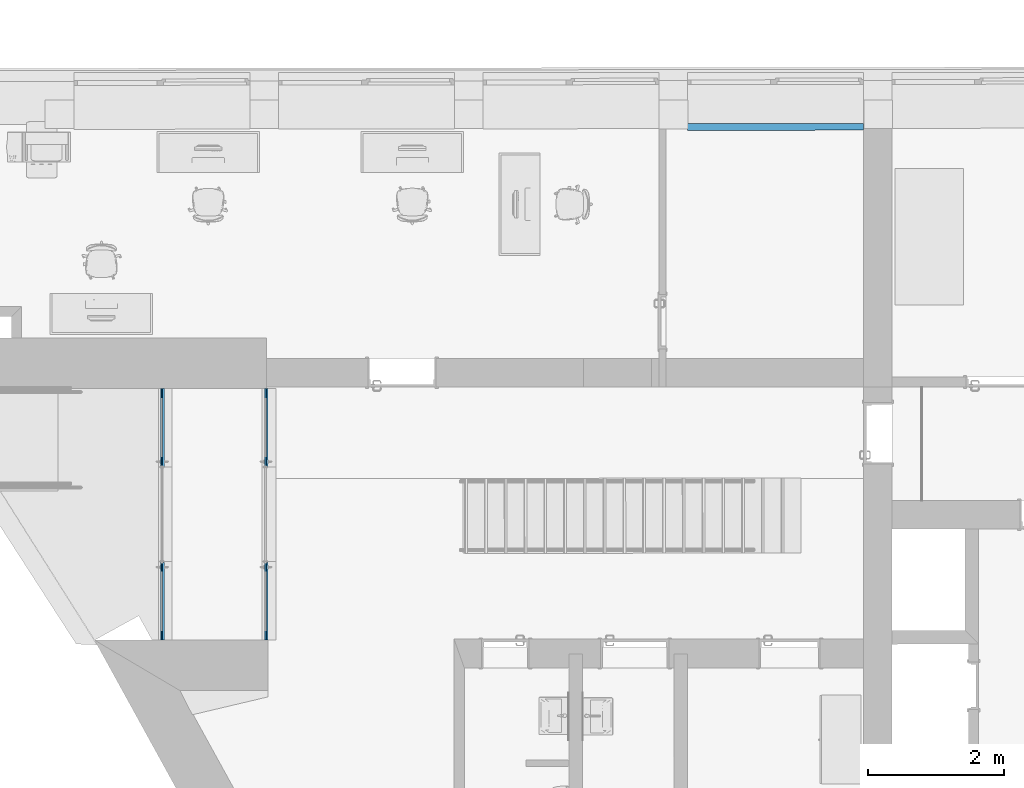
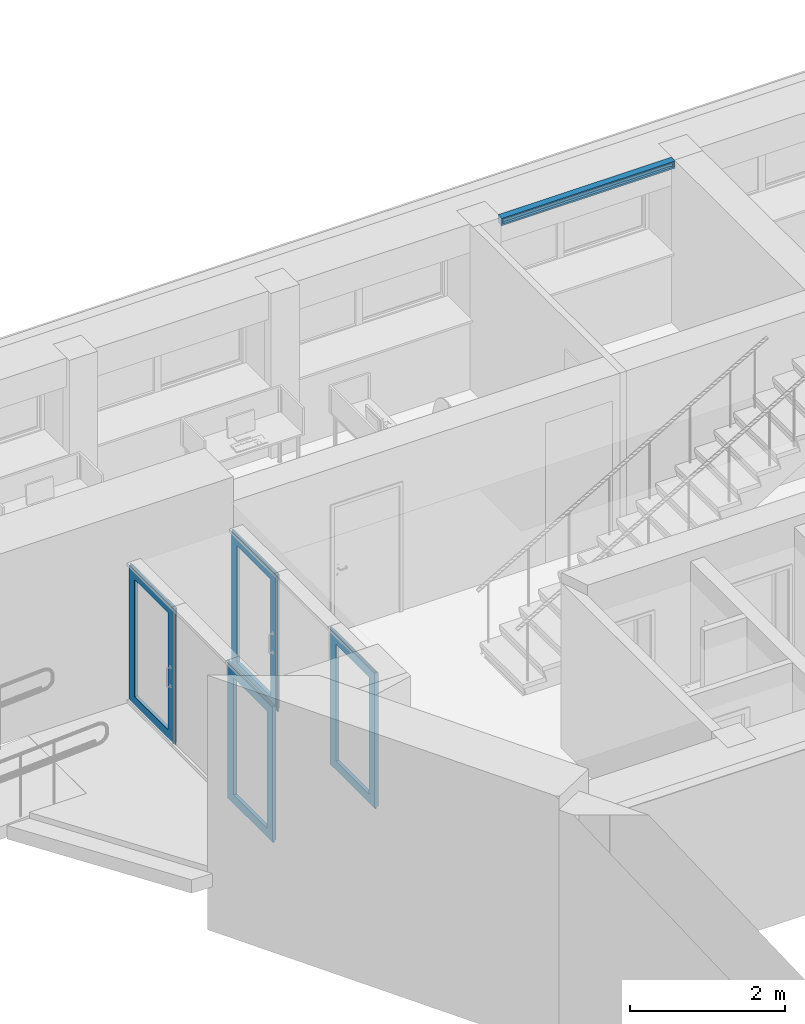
# One storey, part 63 of 127: 4 building element parts, 1 discrete accessory, 6 elements without a shape of their own.
"""IFC2X3 building model written with IfcOpenShell, lengths in millimetres."""

from ifc_helpers import new_model, entity, si_unit, converted_unit, derived_unit, money_unit, direction, frame, origin_with_axes, place, context, subcontext, project, spatial, faceted_brep, material, type_object, element, aggregate, save


model = new_model("IFC2X3")

# Units and contexts
model_context = context("Model", 3, precision=1e-05, world=origin_with_axes(), true_north=direction((0.0, 1.0)))
body_context = subcontext(model_context, "Body", "Model", "MODEL_VIEW")
ifc_project = project(units=[si_unit("LENGTHUNIT", "METRE", prefix="MILLI"), si_unit("AREAUNIT", "SQUARE_METRE"), si_unit("VOLUMEUNIT", "CUBIC_METRE"), converted_unit("PLANEANGLEUNIT", "DEGREE", entity("IfcPlaneAngleMeasure", 0.0174532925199), si_unit("PLANEANGLEUNIT", "RADIAN"), dimensions=[0, 0, 0, 0, 0, 0, 0]), si_unit("SOLIDANGLEUNIT", "STERADIAN"), money_unit("EUR"), converted_unit("TIMEUNIT", "Year", entity("IfcTimeMeasure", 31556926.0), si_unit("TIMEUNIT", "SECOND"), dimensions=[0, 0, 1, 0, 0, 0, 0]), si_unit("MASSUNIT", "GRAM", prefix="KILO"), si_unit("THERMODYNAMICTEMPERATUREUNIT", "DEGREE_CELSIUS"), si_unit("LUMINOUSINTENSITYUNIT", "LUMEN"), si_unit("ENERGYUNIT", "JOULE", prefix="MEGA"), derived_unit("THERMALCONDUCTANCEUNIT", [(si_unit("POWERUNIT", "WATT"), 1), (si_unit("LENGTHUNIT", "METRE"), -1), (si_unit("THERMODYNAMICTEMPERATUREUNIT", "KELVIN"), -1)]), derived_unit("SPECIFICHEATCAPACITYUNIT", [(si_unit("ENERGYUNIT", "JOULE"), 1), (si_unit("MASSUNIT", "GRAM", prefix="KILO"), -1), (si_unit("THERMODYNAMICTEMPERATUREUNIT", "KELVIN"), -1)]), derived_unit("MASSDENSITYUNIT", [(si_unit("MASSUNIT", "GRAM", prefix="KILO"), 1), (si_unit("VOLUMEUNIT", "CUBIC_METRE"), -1)])], contexts=[model_context])

# Site, building, storey
site_placement = place(None, origin_with_axes())
site = spatial("IfcSite", under=ifc_project, at=site_placement, Name="Site", CompositionType="ELEMENT")
building_placement = place(site_placement, origin_with_axes())
building = spatial("IfcBuilding", under=site, at=building_placement, Name="Building", CompositionType="ELEMENT")
storey_placement = place(building_placement, origin_with_axes())
storey = spatial("IfcBuildingStorey", under=building, at=storey_placement, Name="1 KORRUS", CompositionType="ELEMENT", Elevation=0.0)

# Discrete accessory
discrete_accessory_type = type_object("IfcDiscreteAccessoryType", Name="Vertical Gable Louver 22")
discrete_accessory_placement = place(storey_placement, frame((15736.3412547, 71166.1241402, 2486.66953527), z_axis=(0.0, 0.0, 1.0), x_axis=(0.999998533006, 0.00171288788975, 0.0)))
element("IfcDiscreteAccessory", 1, at=discrete_accessory_placement, inside=storey, type_object=discrete_accessory_type, Name="Turvakardin", context=body_context, shape_type="Brep", body=[
    faceted_brep([(-2579.47639135, 0.0, 25.4), (-2579.47639135, 0.0, 113.330464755), (-2515.97639135, 0.0, 49.8304647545), (-2515.97639135, 0.0, 25.4), (-2579.47639135, -100.0, 25.4), (-2579.47639135, -100.0, 113.330464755), (0.0, 0.0, 113.330464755), (-63.5, 0.0, 49.8304647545), (-2515.97639135, -68.74, 49.8304647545), (-2515.97639135, -68.74, 25.4), (-2515.98626961, -68.7515556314, 25.4), (-2555.65401309, -74.9984443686, 25.4), (-2555.66389135, -75.0, 25.4), (-2555.66691749, -75.0095311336, 25.4), (-2563.60139135, -100.0, 25.4), (-2563.60139135, -100.0, 97.4554647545), (0.0, -100.0, 113.330464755), (0.0, 0.0, 25.4), (-63.5, 0.0, 25.4), (-63.5, -68.74, 49.8304647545), (-2515.98626961, -68.7515556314, 49.840343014), (-2555.65401309, -74.9984443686, 89.508086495), (-2555.66389135, -75.0, 89.5179647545), (-2555.66691749, -75.0095311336, 89.5209908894), (-15.875, -100.0, 97.4554647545), (0.0, -100.0, 25.4), (-15.875, -100.0, 25.4), (-23.8094738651, -75.0095311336, 25.4), (-23.8125, -75.0, 25.4), (-23.8223782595, -74.9984443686, 25.4), (-63.4901217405, -68.7515556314, 25.4), (-63.5, -68.74, 25.4), (-63.4901217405, -68.7515556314, 49.840343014), (-23.8223782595, -74.9984443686, 89.508086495), (-23.8125, -75.0, 89.5179647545), (-23.8094738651, -75.0095311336, 89.5209908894)], [[[0, 1, 2, 3]], [[4, 5, 1, 0]], [[1, 6, 7, 2]], [[3, 2, 8, 9]], [[0, 3, 9, 10, 11, 12, 13, 14, 4]], [[14, 15, 5, 4]], [[5, 16, 6, 1]], [[6, 17, 18, 7]], [[2, 7, 19, 8]], [[9, 8, 20, 10]], [[10, 20, 21, 11]], [[11, 21, 22, 12]], [[12, 22, 23, 13]], [[13, 23, 15, 14]], [[15, 24, 16, 5]], [[16, 25, 17, 6]], [[17, 25, 26, 27, 28, 29, 30, 31, 18]], [[7, 18, 31, 19]], [[8, 19, 32, 20]], [[20, 32, 33, 21]], [[21, 33, 34, 22]], [[22, 34, 35, 23]], [[23, 35, 24, 15]], [[24, 26, 25, 16]], [[35, 27, 26, 24]], [[34, 28, 27, 35]], [[33, 29, 28, 34]], [[32, 30, 29, 33]], [[19, 31, 30, 32]]]),
    faceted_brep([(-2579.47639135, 0.0, 0.0), (-2579.47639135, 0.0, 25.4), (0.0, 0.0, 25.4), (0.0, 0.0, 0.0), (-2579.47639135, -100.0, 0.0), (-2579.47639135, -100.0, 25.4), (0.0, -100.0, 25.4), (0.0, -100.0, 0.0)], [[[0, 1, 2, 3]], [[0, 4, 5, 1]], [[1, 5, 6, 2]], [[2, 6, 7, 3]], [[3, 7, 4, 0]], [[7, 6, 5, 4]]]),
    faceted_brep([(-2515.97639135, -62.5, 25.4), (-63.5, -62.5, 25.4), (-63.5, -62.5, 49.8304647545), (-2515.97639135, -62.5, 49.8304647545), (-2515.97639135, -50.0, 25.4), (-63.5, -50.0, 25.4), (-63.5, -32.8986746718, 49.8304647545), (-2515.97639135, -32.8986746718, 49.8304647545)], [[[0, 1, 2, 3]], [[4, 5, 1, 0]], [[1, 5, 6, 2]], [[3, 2, 6, 7]], [[0, 3, 7, 4]], [[7, 6, 5, 4]]]),
])

# Curtain wall, doors, building element parts
curtain_wall_type_1 = type_object("IfcCurtainWallType", Name="SU-1", PredefinedType="NOTDEFINED")
curtain_wall_1_placement = place(storey_placement, frame((6971.7658044, 65433.451484, 25.0), z_axis=(0.0, 0.0, 1.0), x_axis=(1.0, 0.0, 0.0)))
curtain_wall_1 = element("IfcCurtainWall", 2, at=curtain_wall_1_placement, inside=storey, type_object=curtain_wall_type_1, Name="Siseuks")
door_style = type_object("IfcDoorStyle", Name="1150 x 5 x 20", ConstructionType="NOTDEFINED", OperationType="NOTDEFINED", ParameterTakesPrecedence=False, Sizeable=False)
door_1_placement = place(curtain_wall_1_placement, frame((0.0, 1268.3040286, 1075.0), z_axis=(0.0, 0.0, 1.0), x_axis=(0.0, -1.0, 0.0)))
door_1 = element("IfcDoor", 3, at=door_1_placement, type_object=door_style, Name="Siseuks * CW Door 22")
ifc_material = material(Name="Alumiinium (1)")
building_element_part_1_placement = place(door_1_placement, origin_with_axes())
building_element_part_1 = element("IfcBuildingElementPart", 4, at=building_element_part_1_placement, material=ifc_material, Name="Alumiinium (1)", context=body_context, shape_type="Brep", body=[
    faceted_brep([(-575.000011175, 35.0, -1049.99999627), (-575.000011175, 30.0, -1049.99999627), (-575.000011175, 30.0, 1049.99999627), (-575.000011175, 35.0, 1049.99999627), (-530.000011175, 35.0, -1049.99999627), (-530.000011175, 30.0, -1049.99999627), (-530.000011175, 30.0, 1004.99999627), (-530.000011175, 35.0, 1004.99999627)], [[[0, 1, 2, 3]], [[4, 5, 1, 0]], [[1, 5, 6, 2]], [[3, 2, 6, 7]], [[0, 3, 7, 4]], [[7, 6, 5, 4]]]),
    faceted_brep([(564.999998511, 35.0, 1049.99999627), (564.999998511, 30.0, 1049.99999627), (519.999998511, 30.0, 1004.99999627), (519.999998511, 35.0, 1004.99999627), (-575.000011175, 35.0, 1049.99999627), (-575.000011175, 30.0, 1049.99999627), (-530.000011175, 30.0, 1004.99999627), (-530.000011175, 35.0, 1004.99999627)], [[[0, 1, 2, 3]], [[4, 5, 1, 0]], [[1, 5, 6, 2]], [[3, 2, 6, 7]], [[0, 3, 7, 4]], [[7, 6, 5, 4]]]),
    faceted_brep([(564.999998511, 35.0, -1049.99999627), (564.999998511, 30.0, -1049.99999627), (519.999998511, 30.0, -1049.99999627), (519.999998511, 35.0, -1049.99999627), (564.999998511, 35.0, 1049.99999627), (564.999998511, 30.0, 1049.99999627), (519.999998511, 30.0, 1004.99999627), (519.999998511, 35.0, 1004.99999627)], [[[0, 1, 2, 3]], [[4, 5, 1, 0]], [[1, 5, 6, 2]], [[3, 2, 6, 7]], [[0, 3, 7, 4]], [[7, 6, 5, 4]]]),
    faceted_brep([(-575.000011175, 30.0, -1049.99999627), (-575.000011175, -20.0, -1049.99999627), (-575.000011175, -20.0, 1049.99999627), (-575.000011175, 30.0, 1049.99999627), (-555.000011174, 30.0, -1049.99999627), (-555.000011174, -20.0, -1049.99999627), (-555.000011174, -20.0, 1029.99999627), (-555.000011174, 30.0, 1029.99999627)], [[[0, 1, 2, 3]], [[4, 5, 1, 0]], [[1, 5, 6, 2]], [[3, 2, 6, 7]], [[0, 3, 7, 4]], [[7, 6, 5, 4]]]),
    faceted_brep([(564.999998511, 30.0, 1049.99999627), (564.999998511, -20.0, 1049.99999627), (544.99999851, -20.0, 1029.99999627), (544.99999851, 30.0, 1029.99999627), (-575.000011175, 30.0, 1049.99999627), (-575.000011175, -20.0, 1049.99999627), (-555.000011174, -20.0, 1029.99999627), (-555.000011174, 30.0, 1029.99999627)], [[[0, 1, 2, 3]], [[4, 5, 1, 0]], [[1, 5, 6, 2]], [[3, 2, 6, 7]], [[0, 3, 7, 4]], [[7, 6, 5, 4]]]),
    faceted_brep([(564.999998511, 30.0, -1049.99999627), (564.999998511, -20.0, -1049.99999627), (544.99999851, -20.0, -1049.99999627), (544.99999851, 30.0, -1049.99999627), (564.999998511, 30.0, 1049.99999627), (564.999998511, -20.0, 1049.99999627), (544.99999851, -20.0, 1029.99999627), (544.99999851, 30.0, 1029.99999627)], [[[0, 1, 2, 3]], [[4, 5, 1, 0]], [[1, 5, 6, 2]], [[3, 2, 6, 7]], [[0, 3, 7, 4]], [[7, 6, 5, 4]]]),
    faceted_brep([(595.000000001, 9.99999999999, -1080.0), (595.000000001, -9.99999999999, -1080.0), (-575.000032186, -9.99999999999, -1080.0), (-575.000032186, 9.99999999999, -1080.0), (564.999998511, 9.99999999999, -1049.99999627), (564.999998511, -9.99999999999, -1049.99999627), (-575.000011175, -9.99999999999, -1049.99999627), (-575.000011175, 9.99999999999, -1049.99999627)], [[[0, 1, 2, 3]], [[4, 5, 1, 0]], [[1, 5, 6, 2]], [[3, 2, 6, 7]], [[0, 3, 7, 4]], [[7, 6, 5, 4]]]),
    faceted_brep([(-575.000032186, 9.99999999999, 1080.0), (-575.000032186, -9.99999999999, 1080.0), (595.000000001, -9.99999999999, 1080.0), (595.000000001, 9.99999999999, 1080.0), (-575.000011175, 9.99999999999, 1049.99999627), (-575.000011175, -9.99999999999, 1049.99999627), (564.999998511, -9.99999999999, 1049.99999627), (564.999998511, 9.99999999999, 1049.99999627)], [[[0, 1, 2, 3]], [[4, 5, 1, 0]], [[1, 5, 6, 2]], [[3, 2, 6, 7]], [[0, 3, 7, 4]], [[7, 6, 5, 4]]]),
    faceted_brep([(595.000000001, 9.99999999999, 1080.0), (595.000000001, -9.99999999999, 1080.0), (595.000000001, -9.99999999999, -1080.0), (595.000000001, 9.99999999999, -1080.0), (564.999998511, 9.99999999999, 1049.99999627), (564.999998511, -9.99999999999, 1049.99999627), (564.999998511, -9.99999999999, -1049.99999627), (564.999998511, 9.99999999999, -1049.99999627)], [[[0, 1, 2, 3]], [[4, 5, 1, 0]], [[1, 5, 6, 2]], [[3, 2, 6, 7]], [[0, 3, 7, 4]], [[7, 6, 5, 4]]]),
    faceted_brep([(424.99999851, 30.0, -929.999996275), (424.99999851, -20.0, -929.999996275), (424.99999851, -20.0, 909.999996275), (424.99999851, 30.0, 909.999996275), (544.99999851, 30.0, -1049.99999627), (544.99999851, -20.0, -1049.99999627), (544.99999851, -20.0, 1029.99999627), (544.99999851, 30.0, 1029.99999627)], [[[0, 1, 2, 3]], [[4, 5, 1, 0]], [[1, 5, 6, 2]], [[3, 2, 6, 7]], [[0, 3, 7, 4]], [[7, 6, 5, 4]]]),
    faceted_brep([(-555.000011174, 30.0, -1049.99999627), (-555.000011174, -20.0, -1049.99999627), (-555.000011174, -20.0, 1029.99999627), (-555.000011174, 30.0, 1029.99999627), (-435.000011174, 30.0, -929.999996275), (-435.000011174, -20.0, -929.999996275), (-435.000011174, -20.0, 909.999996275), (-435.000011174, 30.0, 909.999996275)], [[[0, 1, 2, 3]], [[4, 5, 1, 0]], [[1, 5, 6, 2]], [[3, 2, 6, 7]], [[0, 3, 7, 4]], [[7, 6, 5, 4]]]),
    faceted_brep([(-555.000011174, 30.0, -1049.99999627), (-555.000011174, -20.0, -1049.99999627), (-435.000011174, -20.0, -929.999996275), (-435.000011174, 30.0, -929.999996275), (544.99999851, 30.0, -1049.99999627), (544.99999851, -20.0, -1049.99999627), (424.99999851, -20.0, -929.999996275), (424.99999851, 30.0, -929.999996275)], [[[0, 1, 2, 3]], [[4, 5, 1, 0]], [[1, 5, 6, 2]], [[3, 2, 6, 7]], [[0, 3, 7, 4]], [[7, 6, 5, 4]]]),
    faceted_brep([(544.99999851, 30.0, 1029.99999627), (544.99999851, -20.0, 1029.99999627), (424.99999851, -20.0, 909.999996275), (424.99999851, 30.0, 909.999996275), (-555.000011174, 30.0, 1029.99999627), (-555.000011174, -20.0, 1029.99999627), (-435.000011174, -20.0, 909.999996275), (-435.000011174, 30.0, 909.999996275)], [[[0, 1, 2, 3]], [[4, 5, 1, 0]], [[1, 5, 6, 2]], [[3, 2, 6, 7]], [[0, 3, 7, 4]], [[7, 6, 5, 4]]]),
])
aggregate(door_1, [building_element_part_1])
door_2_placement = place(curtain_wall_1_placement, frame((0.0, -1268.3040286, 1075.0), z_axis=(0.0, 0.0, 1.0), x_axis=(0.0, -1.0, 0.0)))
door_2 = element("IfcDoor", 5, at=door_2_placement, type_object=door_style, Name="Siseuks * CW Door 22")
aggregate(curtain_wall_1, [door_1, door_2])
building_element_part_2_placement = place(door_2_placement, origin_with_axes())
building_element_part_2 = element("IfcBuildingElementPart", 6, at=building_element_part_2_placement, material=ifc_material, Name="Alumiinium (1)", context=body_context, shape_type="Brep", body=[
    faceted_brep([(-565.000009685, 35.0, -1049.99999627), (-565.000009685, 30.0, -1049.99999627), (-565.000009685, 30.0, 1049.99999627), (-565.000009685, 35.0, 1049.99999627), (-520.000009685, 35.0, -1049.99999627), (-520.000009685, 30.0, -1049.99999627), (-520.000009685, 30.0, 1004.99999627), (-520.000009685, 35.0, 1004.99999627)], [[[0, 1, 2, 3]], [[4, 5, 1, 0]], [[1, 5, 6, 2]], [[3, 2, 6, 7]], [[0, 3, 7, 4]], [[7, 6, 5, 4]]]),
    faceted_brep([(575.000000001, 35.0, 1049.99999627), (575.000000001, 30.0, 1049.99999627), (530.000000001, 30.0, 1004.99999627), (530.000000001, 35.0, 1004.99999627), (-565.000009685, 35.0, 1049.99999627), (-565.000009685, 30.0, 1049.99999627), (-520.000009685, 30.0, 1004.99999627), (-520.000009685, 35.0, 1004.99999627)], [[[0, 1, 2, 3]], [[4, 5, 1, 0]], [[1, 5, 6, 2]], [[3, 2, 6, 7]], [[0, 3, 7, 4]], [[7, 6, 5, 4]]]),
    faceted_brep([(575.000000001, 35.0, -1049.99999627), (575.000000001, 30.0, -1049.99999627), (530.000000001, 30.0, -1049.99999627), (530.000000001, 35.0, -1049.99999627), (575.000000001, 35.0, 1049.99999627), (575.000000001, 30.0, 1049.99999627), (530.000000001, 30.0, 1004.99999627), (530.000000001, 35.0, 1004.99999627)], [[[0, 1, 2, 3]], [[4, 5, 1, 0]], [[1, 5, 6, 2]], [[3, 2, 6, 7]], [[0, 3, 7, 4]], [[7, 6, 5, 4]]]),
    faceted_brep([(-565.000009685, 30.0, -1049.99999627), (-565.000009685, -20.0, -1049.99999627), (-565.000009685, -20.0, 1049.99999627), (-565.000009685, 30.0, 1049.99999627), (-545.000009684, 30.0, -1049.99999627), (-545.000009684, -20.0, -1049.99999627), (-545.000009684, -20.0, 1029.99999627), (-545.000009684, 30.0, 1029.99999627)], [[[0, 1, 2, 3]], [[4, 5, 1, 0]], [[1, 5, 6, 2]], [[3, 2, 6, 7]], [[0, 3, 7, 4]], [[7, 6, 5, 4]]]),
    faceted_brep([(575.000000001, 30.0, 1049.99999627), (575.000000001, -20.0, 1049.99999627), (555.0, -20.0, 1029.99999627), (555.0, 30.0, 1029.99999627), (-565.000009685, 30.0, 1049.99999627), (-565.000009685, -20.0, 1049.99999627), (-545.000009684, -20.0, 1029.99999627), (-545.000009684, 30.0, 1029.99999627)], [[[0, 1, 2, 3]], [[4, 5, 1, 0]], [[1, 5, 6, 2]], [[3, 2, 6, 7]], [[0, 3, 7, 4]], [[7, 6, 5, 4]]]),
    faceted_brep([(575.000000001, 30.0, -1049.99999627), (575.000000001, -20.0, -1049.99999627), (555.0, -20.0, -1049.99999627), (555.0, 30.0, -1049.99999627), (575.000000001, 30.0, 1049.99999627), (575.000000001, -20.0, 1049.99999627), (555.0, -20.0, 1029.99999627), (555.0, 30.0, 1029.99999627)], [[[0, 1, 2, 3]], [[4, 5, 1, 0]], [[1, 5, 6, 2]], [[3, 2, 6, 7]], [[0, 3, 7, 4]], [[7, 6, 5, 4]]]),
    faceted_brep([(575.000000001, 9.99999999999, -1080.0), (575.000000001, -9.99999999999, -1080.0), (-594.999999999, -9.99999999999, -1080.0), (-594.999999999, 9.99999999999, -1080.0), (575.000000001, 9.99999999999, -1049.99999627), (575.000000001, -9.99999999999, -1049.99999627), (-565.000009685, -9.99999999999, -1049.99999627), (-565.000009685, 9.99999999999, -1049.99999627)], [[[0, 1, 2, 3]], [[4, 5, 1, 0]], [[1, 5, 6, 2]], [[3, 2, 6, 7]], [[0, 3, 7, 4]], [[7, 6, 5, 4]]]),
    faceted_brep([(-594.999999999, 9.99999999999, -1080.0), (-594.999999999, -9.99999999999, -1080.0), (-594.999999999, -9.99999999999, 1080.0), (-594.999999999, 9.99999999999, 1080.0), (-565.000009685, 9.99999999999, -1049.99999627), (-565.000009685, -9.99999999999, -1049.99999627), (-565.000009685, -9.99999999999, 1049.99999627), (-565.000009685, 9.99999999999, 1049.99999627)], [[[0, 1, 2, 3]], [[4, 5, 1, 0]], [[1, 5, 6, 2]], [[3, 2, 6, 7]], [[0, 3, 7, 4]], [[7, 6, 5, 4]]]),
    faceted_brep([(-594.999999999, 9.99999999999, 1080.0), (-594.999999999, -9.99999999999, 1080.0), (575.000000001, -9.99999999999, 1080.0), (575.000000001, 9.99999999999, 1080.0), (-565.000009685, 9.99999999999, 1049.99999627), (-565.000009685, -9.99999999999, 1049.99999627), (575.000000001, -9.99999999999, 1049.99999627), (575.000000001, 9.99999999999, 1049.99999627)], [[[0, 1, 2, 3]], [[4, 5, 1, 0]], [[1, 5, 6, 2]], [[3, 2, 6, 7]], [[0, 3, 7, 4]], [[7, 6, 5, 4]]]),
    faceted_brep([(435.0, 30.0, -929.999996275), (435.0, -20.0, -929.999996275), (435.0, -20.0, 909.999996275), (435.0, 30.0, 909.999996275), (555.0, 30.0, -1049.99999627), (555.0, -20.0, -1049.99999627), (555.0, -20.0, 1029.99999627), (555.0, 30.0, 1029.99999627)], [[[0, 1, 2, 3]], [[4, 5, 1, 0]], [[1, 5, 6, 2]], [[3, 2, 6, 7]], [[0, 3, 7, 4]], [[7, 6, 5, 4]]]),
    faceted_brep([(-545.000009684, 30.0, -1049.99999627), (-545.000009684, -20.0, -1049.99999627), (-545.000009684, -20.0, 1029.99999627), (-545.000009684, 30.0, 1029.99999627), (-425.000009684, 30.0, -929.999996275), (-425.000009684, -20.0, -929.999996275), (-425.000009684, -20.0, 909.999996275), (-425.000009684, 30.0, 909.999996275)], [[[0, 1, 2, 3]], [[4, 5, 1, 0]], [[1, 5, 6, 2]], [[3, 2, 6, 7]], [[0, 3, 7, 4]], [[7, 6, 5, 4]]]),
    faceted_brep([(-545.000009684, 30.0, -1049.99999627), (-545.000009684, -20.0, -1049.99999627), (-425.000009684, -20.0, -929.999996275), (-425.000009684, 30.0, -929.999996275), (555.0, 30.0, -1049.99999627), (555.0, -20.0, -1049.99999627), (435.0, -20.0, -929.999996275), (435.0, 30.0, -929.999996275)], [[[0, 1, 2, 3]], [[4, 5, 1, 0]], [[1, 5, 6, 2]], [[3, 2, 6, 7]], [[0, 3, 7, 4]], [[7, 6, 5, 4]]]),
    faceted_brep([(555.0, 30.0, 1029.99999627), (555.0, -20.0, 1029.99999627), (435.0, -20.0, 909.999996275), (435.0, 30.0, 909.999996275), (-545.000009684, 30.0, 1029.99999627), (-545.000009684, -20.0, 1029.99999627), (-425.000009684, -20.0, 909.999996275), (-425.000009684, 30.0, 909.999996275)], [[[0, 1, 2, 3]], [[4, 5, 1, 0]], [[1, 5, 6, 2]], [[3, 2, 6, 7]], [[0, 3, 7, 4]], [[7, 6, 5, 4]]]),
])
aggregate(door_2, [building_element_part_2])

curtain_wall_type_2 = type_object("IfcCurtainWallType", Name="VU-1", PredefinedType="NOTDEFINED")
curtain_wall_2_placement = place(storey_placement, frame((5451.67242151, 65433.4489779, 25.0), z_axis=(0.0, 0.0, 1.0), x_axis=(1.0, 0.0, 0.0)))
curtain_wall_2 = element("IfcCurtainWall", 7, at=curtain_wall_2_placement, inside=storey, type_object=curtain_wall_type_2, Name="Välisuks")
door_3_placement = place(curtain_wall_2_placement, frame((0.0, 1268.3040286, 1075.0), z_axis=(0.0, 0.0, 1.0), x_axis=(0.0, -1.0, 0.0)))
door_3 = element("IfcDoor", 8, at=door_3_placement, type_object=door_style, Name="Välisuks * CW Door 22")
building_element_part_3_placement = place(door_3_placement, origin_with_axes())
building_element_part_3 = element("IfcBuildingElementPart", 9, at=building_element_part_3_placement, material=ifc_material, Name="Alumiinium (1)", context=body_context, shape_type="Brep", body=[
    faceted_brep([(-575.000011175, 35.0, -1049.99999627), (-575.000011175, 30.0, -1049.99999627), (-575.000011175, 30.0, 1049.99999627), (-575.000011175, 35.0, 1049.99999627), (-530.000011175, 35.0, -1049.99999627), (-530.000011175, 30.0, -1049.99999627), (-530.000011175, 30.0, 1004.99999627), (-530.000011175, 35.0, 1004.99999627)], [[[0, 1, 2, 3]], [[4, 5, 1, 0]], [[1, 5, 6, 2]], [[3, 2, 6, 7]], [[0, 3, 7, 4]], [[7, 6, 5, 4]]]),
    faceted_brep([(564.999998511, 35.0, 1049.99999627), (564.999998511, 30.0, 1049.99999627), (519.999998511, 30.0, 1004.99999627), (519.999998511, 35.0, 1004.99999627), (-575.000011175, 35.0, 1049.99999627), (-575.000011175, 30.0, 1049.99999627), (-530.000011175, 30.0, 1004.99999627), (-530.000011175, 35.0, 1004.99999627)], [[[0, 1, 2, 3]], [[4, 5, 1, 0]], [[1, 5, 6, 2]], [[3, 2, 6, 7]], [[0, 3, 7, 4]], [[7, 6, 5, 4]]]),
    faceted_brep([(564.999998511, 35.0, -1049.99999627), (564.999998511, 30.0, -1049.99999627), (519.999998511, 30.0, -1049.99999627), (519.999998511, 35.0, -1049.99999627), (564.999998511, 35.0, 1049.99999627), (564.999998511, 30.0, 1049.99999627), (519.999998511, 30.0, 1004.99999627), (519.999998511, 35.0, 1004.99999627)], [[[0, 1, 2, 3]], [[4, 5, 1, 0]], [[1, 5, 6, 2]], [[3, 2, 6, 7]], [[0, 3, 7, 4]], [[7, 6, 5, 4]]]),
    faceted_brep([(-575.000011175, 30.0, -1049.99999627), (-575.000011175, -20.0, -1049.99999627), (-575.000011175, -20.0, 1049.99999627), (-575.000011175, 30.0, 1049.99999627), (-555.000011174, 30.0, -1049.99999627), (-555.000011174, -20.0, -1049.99999627), (-555.000011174, -20.0, 1029.99999627), (-555.000011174, 30.0, 1029.99999627)], [[[0, 1, 2, 3]], [[4, 5, 1, 0]], [[1, 5, 6, 2]], [[3, 2, 6, 7]], [[0, 3, 7, 4]], [[7, 6, 5, 4]]]),
    faceted_brep([(564.999998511, 30.0, 1049.99999627), (564.999998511, -20.0, 1049.99999627), (544.99999851, -20.0, 1029.99999627), (544.99999851, 30.0, 1029.99999627), (-575.000011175, 30.0, 1049.99999627), (-575.000011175, -20.0, 1049.99999627), (-555.000011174, -20.0, 1029.99999627), (-555.000011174, 30.0, 1029.99999627)], [[[0, 1, 2, 3]], [[4, 5, 1, 0]], [[1, 5, 6, 2]], [[3, 2, 6, 7]], [[0, 3, 7, 4]], [[7, 6, 5, 4]]]),
    faceted_brep([(564.999998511, 30.0, -1049.99999627), (564.999998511, -20.0, -1049.99999627), (544.99999851, -20.0, -1049.99999627), (544.99999851, 30.0, -1049.99999627), (564.999998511, 30.0, 1049.99999627), (564.999998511, -20.0, 1049.99999627), (544.99999851, -20.0, 1029.99999627), (544.99999851, 30.0, 1029.99999627)], [[[0, 1, 2, 3]], [[4, 5, 1, 0]], [[1, 5, 6, 2]], [[3, 2, 6, 7]], [[0, 3, 7, 4]], [[7, 6, 5, 4]]]),
    faceted_brep([(595.000000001, 9.99999999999, -1080.0), (595.000000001, -9.99999999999, -1080.0), (-575.000032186, -9.99999999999, -1080.0), (-575.000032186, 9.99999999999, -1080.0), (564.999998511, 9.99999999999, -1049.99999627), (564.999998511, -9.99999999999, -1049.99999627), (-575.000011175, -9.99999999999, -1049.99999627), (-575.000011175, 9.99999999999, -1049.99999627)], [[[0, 1, 2, 3]], [[4, 5, 1, 0]], [[1, 5, 6, 2]], [[3, 2, 6, 7]], [[0, 3, 7, 4]], [[7, 6, 5, 4]]]),
    faceted_brep([(-575.000032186, 9.99999999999, 1080.0), (-575.000032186, -9.99999999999, 1080.0), (595.000000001, -9.99999999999, 1080.0), (595.000000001, 9.99999999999, 1080.0), (-575.000011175, 9.99999999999, 1049.99999627), (-575.000011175, -9.99999999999, 1049.99999627), (564.999998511, -9.99999999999, 1049.99999627), (564.999998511, 9.99999999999, 1049.99999627)], [[[0, 1, 2, 3]], [[4, 5, 1, 0]], [[1, 5, 6, 2]], [[3, 2, 6, 7]], [[0, 3, 7, 4]], [[7, 6, 5, 4]]]),
    faceted_brep([(595.000000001, 9.99999999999, 1080.0), (595.000000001, -9.99999999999, 1080.0), (595.000000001, -9.99999999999, -1080.0), (595.000000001, 9.99999999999, -1080.0), (564.999998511, 9.99999999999, 1049.99999627), (564.999998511, -9.99999999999, 1049.99999627), (564.999998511, -9.99999999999, -1049.99999627), (564.999998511, 9.99999999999, -1049.99999627)], [[[0, 1, 2, 3]], [[4, 5, 1, 0]], [[1, 5, 6, 2]], [[3, 2, 6, 7]], [[0, 3, 7, 4]], [[7, 6, 5, 4]]]),
    faceted_brep([(424.99999851, 30.0, -929.999996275), (424.99999851, -20.0, -929.999996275), (424.99999851, -20.0, 909.999996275), (424.99999851, 30.0, 909.999996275), (544.99999851, 30.0, -1049.99999627), (544.99999851, -20.0, -1049.99999627), (544.99999851, -20.0, 1029.99999627), (544.99999851, 30.0, 1029.99999627)], [[[0, 1, 2, 3]], [[4, 5, 1, 0]], [[1, 5, 6, 2]], [[3, 2, 6, 7]], [[0, 3, 7, 4]], [[7, 6, 5, 4]]]),
    faceted_brep([(-555.000011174, 30.0, -1049.99999627), (-555.000011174, -20.0, -1049.99999627), (-555.000011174, -20.0, 1029.99999627), (-555.000011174, 30.0, 1029.99999627), (-435.000011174, 30.0, -929.999996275), (-435.000011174, -20.0, -929.999996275), (-435.000011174, -20.0, 909.999996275), (-435.000011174, 30.0, 909.999996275)], [[[0, 1, 2, 3]], [[4, 5, 1, 0]], [[1, 5, 6, 2]], [[3, 2, 6, 7]], [[0, 3, 7, 4]], [[7, 6, 5, 4]]]),
    faceted_brep([(-555.000011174, 30.0, -1049.99999627), (-555.000011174, -20.0, -1049.99999627), (-435.000011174, -20.0, -929.999996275), (-435.000011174, 30.0, -929.999996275), (544.99999851, 30.0, -1049.99999627), (544.99999851, -20.0, -1049.99999627), (424.99999851, -20.0, -929.999996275), (424.99999851, 30.0, -929.999996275)], [[[0, 1, 2, 3]], [[4, 5, 1, 0]], [[1, 5, 6, 2]], [[3, 2, 6, 7]], [[0, 3, 7, 4]], [[7, 6, 5, 4]]]),
    faceted_brep([(544.99999851, 30.0, 1029.99999627), (544.99999851, -20.0, 1029.99999627), (424.99999851, -20.0, 909.999996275), (424.99999851, 30.0, 909.999996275), (-555.000011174, 30.0, 1029.99999627), (-555.000011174, -20.0, 1029.99999627), (-435.000011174, -20.0, 909.999996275), (-435.000011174, 30.0, 909.999996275)], [[[0, 1, 2, 3]], [[4, 5, 1, 0]], [[1, 5, 6, 2]], [[3, 2, 6, 7]], [[0, 3, 7, 4]], [[7, 6, 5, 4]]]),
])
aggregate(door_3, [building_element_part_3])
door_4_placement = place(curtain_wall_2_placement, frame((0.0, -1268.3040286, 1075.0), z_axis=(0.0, 0.0, 1.0), x_axis=(0.0, -1.0, 0.0)))
door_4 = element("IfcDoor", 10, at=door_4_placement, type_object=door_style, Name="Välisuks * CW Door 22")
aggregate(curtain_wall_2, [door_3, door_4])
building_element_part_4_placement = place(door_4_placement, origin_with_axes())
building_element_part_4 = element("IfcBuildingElementPart", 11, at=building_element_part_4_placement, material=ifc_material, Name="Alumiinium (1)", context=body_context, shape_type="Brep", body=[
    faceted_brep([(-565.000009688, 35.0, -1049.99999627), (-565.000009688, 30.0, -1049.99999627), (-565.000009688, 30.0, 1049.99999627), (-565.000009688, 35.0, 1049.99999627), (-520.000009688, 35.0, -1049.99999627), (-520.000009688, 30.0, -1049.99999627), (-520.000009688, 30.0, 1004.99999627), (-520.000009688, 35.0, 1004.99999627)], [[[0, 1, 2, 3]], [[4, 5, 1, 0]], [[1, 5, 6, 2]], [[3, 2, 6, 7]], [[0, 3, 7, 4]], [[7, 6, 5, 4]]]),
    faceted_brep([(574.999999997, 35.0, 1049.99999627), (574.999999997, 30.0, 1049.99999627), (529.999999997, 30.0, 1004.99999627), (529.999999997, 35.0, 1004.99999627), (-565.000009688, 35.0, 1049.99999627), (-565.000009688, 30.0, 1049.99999627), (-520.000009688, 30.0, 1004.99999627), (-520.000009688, 35.0, 1004.99999627)], [[[0, 1, 2, 3]], [[4, 5, 1, 0]], [[1, 5, 6, 2]], [[3, 2, 6, 7]], [[0, 3, 7, 4]], [[7, 6, 5, 4]]]),
    faceted_brep([(574.999999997, 35.0, -1049.99999627), (574.999999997, 30.0, -1049.99999627), (529.999999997, 30.0, -1049.99999627), (529.999999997, 35.0, -1049.99999627), (574.999999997, 35.0, 1049.99999627), (574.999999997, 30.0, 1049.99999627), (529.999999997, 30.0, 1004.99999627), (529.999999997, 35.0, 1004.99999627)], [[[0, 1, 2, 3]], [[4, 5, 1, 0]], [[1, 5, 6, 2]], [[3, 2, 6, 7]], [[0, 3, 7, 4]], [[7, 6, 5, 4]]]),
    faceted_brep([(-565.000009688, 30.0, -1049.99999627), (-565.000009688, -20.0, -1049.99999627), (-565.000009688, -20.0, 1049.99999627), (-565.000009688, 30.0, 1049.99999627), (-545.000009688, 30.0, -1049.99999627), (-545.000009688, -20.0, -1049.99999627), (-545.000009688, -20.0, 1029.99999627), (-545.000009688, 30.0, 1029.99999627)], [[[0, 1, 2, 3]], [[4, 5, 1, 0]], [[1, 5, 6, 2]], [[3, 2, 6, 7]], [[0, 3, 7, 4]], [[7, 6, 5, 4]]]),
    faceted_brep([(574.999999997, 30.0, 1049.99999627), (574.999999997, -20.0, 1049.99999627), (554.999999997, -20.0, 1029.99999627), (554.999999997, 30.0, 1029.99999627), (-565.000009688, 30.0, 1049.99999627), (-565.000009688, -20.0, 1049.99999627), (-545.000009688, -20.0, 1029.99999627), (-545.000009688, 30.0, 1029.99999627)], [[[0, 1, 2, 3]], [[4, 5, 1, 0]], [[1, 5, 6, 2]], [[3, 2, 6, 7]], [[0, 3, 7, 4]], [[7, 6, 5, 4]]]),
    faceted_brep([(574.999999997, 30.0, -1049.99999627), (574.999999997, -20.0, -1049.99999627), (554.999999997, -20.0, -1049.99999627), (554.999999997, 30.0, -1049.99999627), (574.999999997, 30.0, 1049.99999627), (574.999999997, -20.0, 1049.99999627), (554.999999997, -20.0, 1029.99999627), (554.999999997, 30.0, 1029.99999627)], [[[0, 1, 2, 3]], [[4, 5, 1, 0]], [[1, 5, 6, 2]], [[3, 2, 6, 7]], [[0, 3, 7, 4]], [[7, 6, 5, 4]]]),
    faceted_brep([(574.999999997, 9.99999999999, -1080.0), (574.999999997, -9.99999999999, -1080.0), (-595.000000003, -9.99999999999, -1080.0), (-595.000000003, 9.99999999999, -1080.0), (574.999999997, 9.99999999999, -1049.99999627), (574.999999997, -9.99999999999, -1049.99999627), (-565.000009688, -9.99999999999, -1049.99999627), (-565.000009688, 9.99999999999, -1049.99999627)], [[[0, 1, 2, 3]], [[4, 5, 1, 0]], [[1, 5, 6, 2]], [[3, 2, 6, 7]], [[0, 3, 7, 4]], [[7, 6, 5, 4]]]),
    faceted_brep([(-595.000000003, 9.99999999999, -1080.0), (-595.000000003, -9.99999999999, -1080.0), (-595.000000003, -9.99999999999, 1080.0), (-595.000000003, 9.99999999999, 1080.0), (-565.000009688, 9.99999999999, -1049.99999627), (-565.000009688, -9.99999999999, -1049.99999627), (-565.000009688, -9.99999999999, 1049.99999627), (-565.000009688, 9.99999999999, 1049.99999627)], [[[0, 1, 2, 3]], [[4, 5, 1, 0]], [[1, 5, 6, 2]], [[3, 2, 6, 7]], [[0, 3, 7, 4]], [[7, 6, 5, 4]]]),
    faceted_brep([(-595.000000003, 9.99999999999, 1080.0), (-595.000000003, -9.99999999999, 1080.0), (574.999999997, -9.99999999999, 1080.0), (574.999999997, 9.99999999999, 1080.0), (-565.000009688, 9.99999999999, 1049.99999627), (-565.000009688, -9.99999999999, 1049.99999627), (574.999999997, -9.99999999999, 1049.99999627), (574.999999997, 9.99999999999, 1049.99999627)], [[[0, 1, 2, 3]], [[4, 5, 1, 0]], [[1, 5, 6, 2]], [[3, 2, 6, 7]], [[0, 3, 7, 4]], [[7, 6, 5, 4]]]),
    faceted_brep([(434.999999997, 30.0, -929.999996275), (434.999999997, -20.0, -929.999996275), (434.999999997, -20.0, 909.999996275), (434.999999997, 30.0, 909.999996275), (554.999999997, 30.0, -1049.99999627), (554.999999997, -20.0, -1049.99999627), (554.999999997, -20.0, 1029.99999627), (554.999999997, 30.0, 1029.99999627)], [[[0, 1, 2, 3]], [[4, 5, 1, 0]], [[1, 5, 6, 2]], [[3, 2, 6, 7]], [[0, 3, 7, 4]], [[7, 6, 5, 4]]]),
    faceted_brep([(-545.000009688, 30.0, -1049.99999627), (-545.000009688, -20.0, -1049.99999627), (-545.000009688, -20.0, 1029.99999627), (-545.000009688, 30.0, 1029.99999627), (-425.000009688, 30.0, -929.999996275), (-425.000009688, -20.0, -929.999996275), (-425.000009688, -20.0, 909.999996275), (-425.000009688, 30.0, 909.999996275)], [[[0, 1, 2, 3]], [[4, 5, 1, 0]], [[1, 5, 6, 2]], [[3, 2, 6, 7]], [[0, 3, 7, 4]], [[7, 6, 5, 4]]]),
    faceted_brep([(-545.000009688, 30.0, -1049.99999627), (-545.000009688, -20.0, -1049.99999627), (-425.000009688, -20.0, -929.999996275), (-425.000009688, 30.0, -929.999996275), (554.999999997, 30.0, -1049.99999627), (554.999999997, -20.0, -1049.99999627), (434.999999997, -20.0, -929.999996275), (434.999999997, 30.0, -929.999996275)], [[[0, 1, 2, 3]], [[4, 5, 1, 0]], [[1, 5, 6, 2]], [[3, 2, 6, 7]], [[0, 3, 7, 4]], [[7, 6, 5, 4]]]),
    faceted_brep([(554.999999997, 30.0, 1029.99999627), (554.999999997, -20.0, 1029.99999627), (434.999999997, -20.0, 909.999996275), (434.999999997, 30.0, 909.999996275), (-545.000009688, 30.0, 1029.99999627), (-545.000009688, -20.0, 1029.99999627), (-425.000009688, -20.0, 909.999996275), (-425.000009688, 30.0, 909.999996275)], [[[0, 1, 2, 3]], [[4, 5, 1, 0]], [[1, 5, 6, 2]], [[3, 2, 6, 7]], [[0, 3, 7, 4]], [[7, 6, 5, 4]]]),
])
aggregate(door_4, [building_element_part_4])

save(model, "model.ifc")
